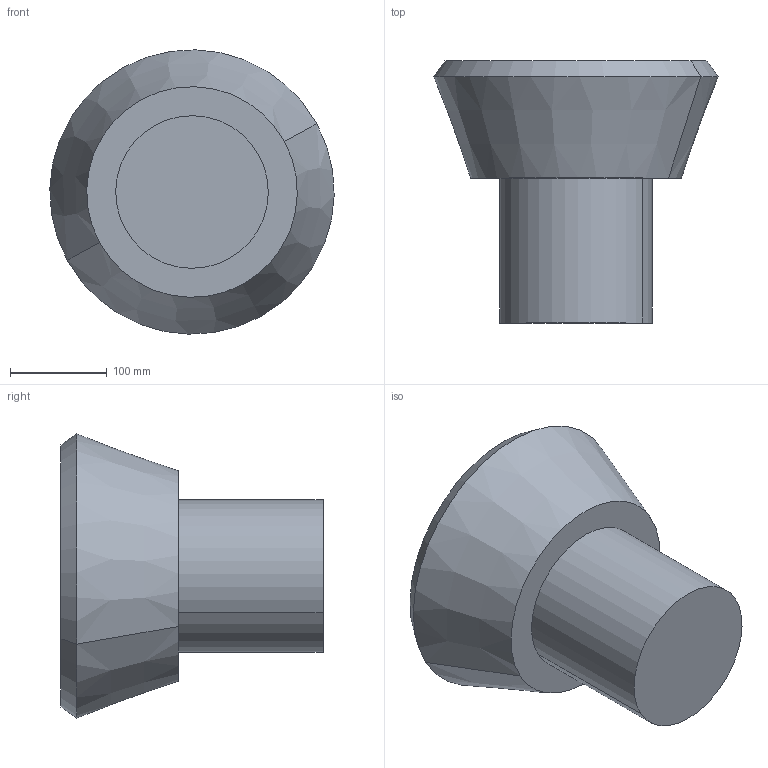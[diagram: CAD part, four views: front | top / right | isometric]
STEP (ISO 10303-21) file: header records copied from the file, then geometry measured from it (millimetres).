
FILE_DESCRIPTION(('CATIA V5 STEP Exchange'),'2;1');
FILE_NAME('C:\_Andres\UNIVERSIDAD\IQS\ASIGNATURAS\DAO\EXF\EXF-15161c\1original\Postius_Echeverri_Ej09-optimiza_v19.stp','2016-03-04T21:55:30+00:00',('none'),('none'),'CATIA Version 5 Release 20 SP 1 (IN-10)','CATIA V5 STEP AP203','none');
FILE_SCHEMA(('CONFIG_CONTROL_DESIGN'));
Length unit declared in the file: millimetre
Products named in the file (1): Postius_Echeverri_Ej09-optimiza_v19
Bounding box: 294.23 x 271.22 x 294.23 mm (x, y, z)
Volume: 9394882.7 mm3; surface area: 281571.4 mm2
Topology: 1 solids, 2 shells, 13 faces, 22 edges, 14 vertices
Faces by surface type: plane 5, cylinder 4, cone 4
Entity records: 324 total; most frequent: CARTESIAN_POINT 47, ORIENTED_EDGE 44, DIRECTION 42, AXIS2_PLACEMENT_3D 25, EDGE_CURVE 22, CIRCLE 14, EDGE_LOOP 14, VERTEX_POINT 14
